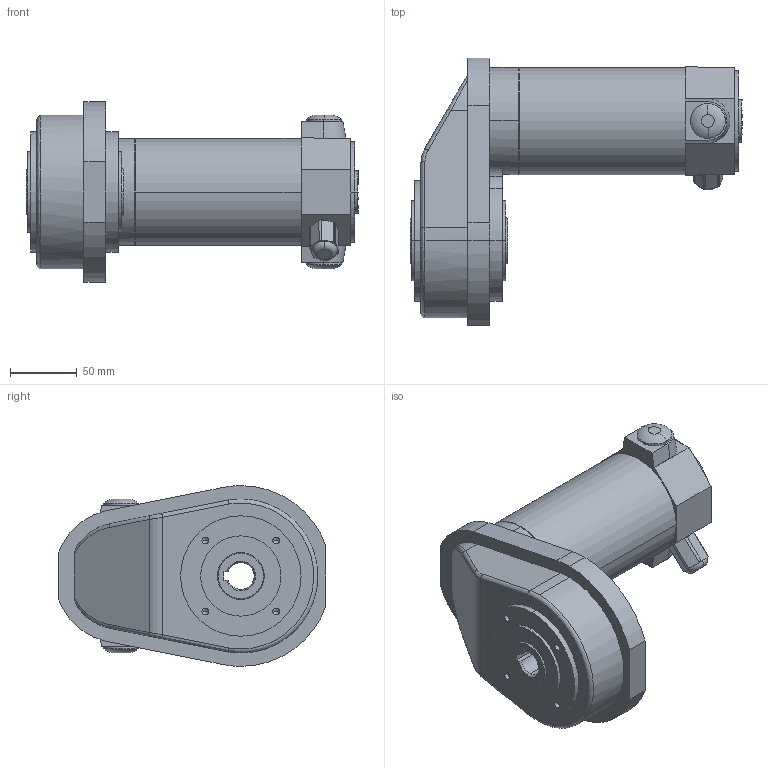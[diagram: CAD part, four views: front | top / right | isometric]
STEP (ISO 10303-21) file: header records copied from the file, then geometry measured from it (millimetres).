
FILE_DESCRIPTION(('OneSpaceDesigner STEP Export'),'2;1');
FILE_NAME('EPG13_FB30.stp','2010-04-13T10:55:35',(''),(''),'OneSpace Designer STEP processor (Jan. 2003) for AP214(CD)(Solid Model)','OneSpace Designer 12.01D 09-Jul-2004 (C) CoCreate Software GmbH','');
FILE_SCHEMA(('AUTOMOTIVE_DESIGN_CC2 {1 2 10303 214 -1 1 5 1}'));
Length unit declared in the file: millimetre
Products named in the file (2): EPG13_FB30
Assembly tree (1 placements, depth 2):
  EPG13_FB30
    EPG13_FB30
Bounding box: 248 x 200 x 135 mm (x, y, z)
Volume: 1917373.5 mm3; surface area: 128577.9 mm2
Topology: 1 solids, 1 shells, 189 faces, 484 edges, 312 vertices
Faces by surface type: cylinder 90, plane 58, cone 26, bspline 9, torus 6
Entity records: 8430 total; most frequent: CARTESIAN_POINT 4361, ORIENTED_EDGE 936, DIRECTION 657, EDGE_CURVE 468, VERTEX_POINT 312, AXIS2_PLACEMENT_3D 227, EDGE_LOOP 222, VECTOR 203
